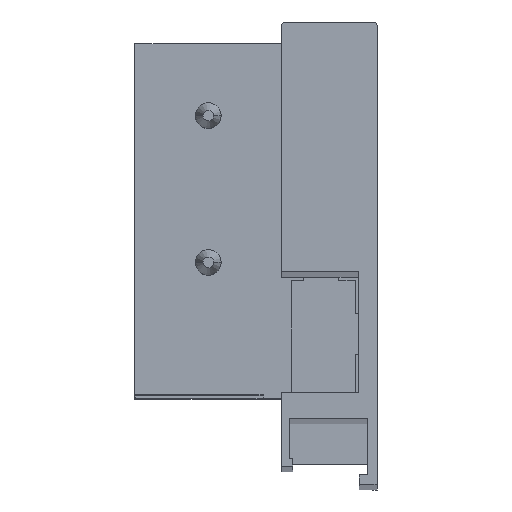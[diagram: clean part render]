
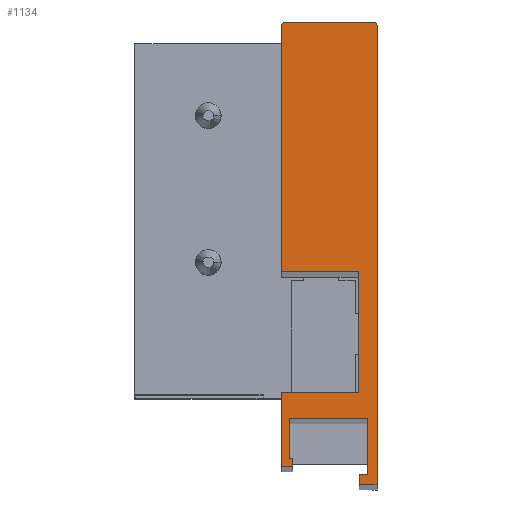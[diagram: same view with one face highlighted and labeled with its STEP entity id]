
A CAD part, top view. The second image highlights one B-rep face of the part: STEP entity #1134.
In plain terms, the highlighted planar face has unit normal (0, 0, 1).
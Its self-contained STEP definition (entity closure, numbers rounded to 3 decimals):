
#17 = DIRECTION ( 'NONE',  ( 1., 0., 0. ) ) ;
#26 = ORIENTED_EDGE ( 'NONE', *, *, #2002, .T. ) ;
#39 = VERTEX_POINT ( 'NONE', #128 ) ;
#50 = DIRECTION ( 'NONE',  ( -1., 0., 0. ) ) ;
#51 = CARTESIAN_POINT ( 'NONE',  ( 0.5, 34., 0. ) ) ;
#79 = LINE ( 'NONE', #2113, #1884 ) ;
#85 = VECTOR ( 'NONE', #310, 1000. ) ;
#97 = VERTEX_POINT ( 'NONE', #1812 ) ;
#119 = ORIENTED_EDGE ( 'NONE', *, *, #1916, .T. ) ;
#120 = CARTESIAN_POINT ( 'NONE',  ( 1., -19.969, 0. ) ) ;
#121 = EDGE_CURVE ( 'NONE', #1108, #1144, #203, .T. ) ;
#128 = CARTESIAN_POINT ( 'NONE',  ( 11.7, -27.7, 0. ) ) ;
#138 = CARTESIAN_POINT ( 'NONE',  ( 10.6, -29., 0. ) ) ;
#166 = CARTESIAN_POINT ( 'NONE',  ( 10.5, -16.5, 0. ) ) ;
#170 = ORIENTED_EDGE ( 'NONE', *, *, #1963, .T. ) ;
#185 = CARTESIAN_POINT ( 'NONE',  ( 0., -16.5, 0. ) ) ;
#199 = DIRECTION ( 'NONE',  ( 0., 1., 0. ) ) ;
#203 = LINE ( 'NONE', #2175, #1598 ) ;
#213 = CARTESIAN_POINT ( 'NONE',  ( 10.6, -29., 0. ) ) ;
#217 = CARTESIAN_POINT ( 'NONE',  ( 1.5, -26.5, 0. ) ) ;
#229 = CARTESIAN_POINT ( 'NONE',  ( 0., -26.5, 0. ) ) ;
#243 = LINE ( 'NONE', #1573, #1072 ) ;
#268 = CARTESIAN_POINT ( 'NONE',  ( 0.5, 33.5, 0. ) ) ;
#269 = VECTOR ( 'NONE', #1627, 1000. ) ;
#280 = VECTOR ( 'NONE', #199, 1000. ) ;
#290 = VERTEX_POINT ( 'NONE', #185 ) ;
#310 = DIRECTION ( 'NONE',  ( -1., 0., 0. ) ) ;
#319 = EDGE_CURVE ( 'NONE', #444, #1108, #544, .T. ) ;
#324 = DIRECTION ( 'NONE',  ( -1., 0., 0. ) ) ;
#344 = DIRECTION ( 'NONE',  ( 0., -1., 0. ) ) ;
#355 = VECTOR ( 'NONE', #1225, 1000. ) ;
#377 = ORIENTED_EDGE ( 'NONE', *, *, #2102, .T. ) ;
#382 = CARTESIAN_POINT ( 'NONE',  ( 13., 33.5, 0. ) ) ;
#403 = LINE ( 'NONE', #382, #1750 ) ;
#407 = CARTESIAN_POINT ( 'NONE',  ( 1.5, -26.5, 0. ) ) ;
#408 = VECTOR ( 'NONE', #1764, 1000. ) ;
#412 = ORIENTED_EDGE ( 'NONE', *, *, #916, .T. ) ;
#435 = DIRECTION ( 'NONE',  ( -1., 0., 0. ) ) ;
#444 = VERTEX_POINT ( 'NONE', #217 ) ;
#473 = DIRECTION ( 'NONE',  ( 0., 0., -1. ) ) ;
#476 = ORIENTED_EDGE ( 'NONE', *, *, #897, .T. ) ;
#492 = ORIENTED_EDGE ( 'NONE', *, *, #1693, .T. ) ;
#506 = VECTOR ( 'NONE', #17, 1000. ) ;
#530 = ORIENTED_EDGE ( 'NONE', *, *, #1481, .T. ) ;
#533 = AXIS2_PLACEMENT_3D ( 'NONE', #1313, #473, #1657 ) ;
#544 = LINE ( 'NONE', #1371, #280 ) ;
#562 = CARTESIAN_POINT ( 'NONE',  ( 12.5, 33.5, 0. ) ) ;
#579 = EDGE_CURVE ( 'NONE', #1719, #444, #2108, .T. ) ;
#604 = CARTESIAN_POINT ( 'NONE',  ( 0., 33.5, 0. ) ) ;
#617 = CARTESIAN_POINT ( 'NONE',  ( 12.5, 34., 0. ) ) ;
#625 = CARTESIAN_POINT ( 'NONE',  ( 0., 0., 0. ) ) ;
#629 = CARTESIAN_POINT ( 'NONE',  ( 10.5, 0., 0. ) ) ;
#704 = AXIS2_PLACEMENT_3D ( 'NONE', #562, #1742, #734 ) ;
#712 = VERTEX_POINT ( 'NONE', #617 ) ;
#718 = CARTESIAN_POINT ( 'NONE',  ( 11.7, -19.969, 0. ) ) ;
#721 = VECTOR ( 'NONE', #344, 1000. ) ;
#734 = DIRECTION ( 'NONE',  ( 1., 0., 0. ) ) ;
#743 = LINE ( 'NONE', #1906, #2044 ) ;
#775 = ORIENTED_EDGE ( 'NONE', *, *, #1870, .T. ) ;
#792 = CARTESIAN_POINT ( 'NONE',  ( 1.5, -25.5, 0. ) ) ;
#800 = VECTOR ( 'NONE', #904, 1000. ) ;
#856 = CARTESIAN_POINT ( 'NONE',  ( 0., -26.5, 0. ) ) ;
#861 = LINE ( 'NONE', #229, #800 ) ;
#896 = ORIENTED_EDGE ( 'NONE', *, *, #1814, .T. ) ;
#897 = EDGE_CURVE ( 'NONE', #1133, #2050, #1353, .T. ) ;
#904 = DIRECTION ( 'NONE',  ( 0., -1., 0. ) ) ;
#909 = DIRECTION ( 'NONE',  ( 1., 0., 0. ) ) ;
#916 = EDGE_CURVE ( 'NONE', #290, #1719, #861, .T. ) ;
#938 = ORIENTED_EDGE ( 'NONE', *, *, #579, .T. ) ;
#945 = ORIENTED_EDGE ( 'NONE', *, *, #319, .T. ) ;
#957 = EDGE_LOOP ( 'NONE', ( #530, #896, #775, #119, #26, #377, #1948, #476, #1910, #412, #938, #945, #1650, #1018, #170, #492, #1867, #1320 ) ) ;
#982 = VERTEX_POINT ( 'NONE', #2116 ) ;
#1016 = CARTESIAN_POINT ( 'NONE',  ( 10.5, 0., 0. ) ) ;
#1018 = ORIENTED_EDGE ( 'NONE', *, *, #2089, .T. ) ;
#1035 = CARTESIAN_POINT ( 'NONE',  ( 10.6, -27.7, 0. ) ) ;
#1044 = VECTOR ( 'NONE', #2154, 1000. ) ;
#1057 = VERTEX_POINT ( 'NONE', #604 ) ;
#1059 = DIRECTION ( 'NONE',  ( -1., 0., 0. ) ) ;
#1072 = VECTOR ( 'NONE', #1059, 1000. ) ;
#1076 = LINE ( 'NONE', #1830, #85 ) ;
#1080 = DIRECTION ( 'NONE',  ( 1., 0., 0. ) ) ;
#1108 = VERTEX_POINT ( 'NONE', #792 ) ;
#1109 = VERTEX_POINT ( 'NONE', #1119 ) ;
#1119 = CARTESIAN_POINT ( 'NONE',  ( 0., 0., 0. ) ) ;
#1126 = PLANE ( 'NONE',  #533 ) ;
#1133 = VERTEX_POINT ( 'NONE', #629 ) ;
#1134 = ADVANCED_FACE ( 'NONE', ( #2019 ), #1126, .F. ) ;
#1139 = CARTESIAN_POINT ( 'NONE',  ( 1., -25.5, 0. ) ) ;
#1144 = VERTEX_POINT ( 'NONE', #1139 ) ;
#1220 = LINE ( 'NONE', #1688, #721 ) ;
#1225 = DIRECTION ( 'NONE',  ( 0., -1., 0. ) ) ;
#1241 = LINE ( 'NONE', #213, #355 ) ;
#1283 = CARTESIAN_POINT ( 'NONE',  ( 10.5, -16.5, 0. ) ) ;
#1303 = VECTOR ( 'NONE', #1401, 1000. ) ;
#1313 = CARTESIAN_POINT ( 'NONE',  ( 0.5, 33.5, 0. ) ) ;
#1320 = ORIENTED_EDGE ( 'NONE', *, *, #1831, .T. ) ;
#1324 = CIRCLE ( 'NONE', #2068, 0.5 ) ;
#1346 = VERTEX_POINT ( 'NONE', #1035 ) ;
#1353 = LINE ( 'NONE', #166, #1303 ) ;
#1371 = CARTESIAN_POINT ( 'NONE',  ( 1.5, -25.5, 0. ) ) ;
#1401 = DIRECTION ( 'NONE',  ( 0., -1., 0. ) ) ;
#1410 = CARTESIAN_POINT ( 'NONE',  ( 13., -29., 0. ) ) ;
#1411 = VERTEX_POINT ( 'NONE', #718 ) ;
#1438 = DIRECTION ( 'NONE',  ( 0., 0., 1. ) ) ;
#1441 = VERTEX_POINT ( 'NONE', #51 ) ;
#1481 = EDGE_CURVE ( 'NONE', #1579, #1841, #1806, .T. ) ;
#1508 = LINE ( 'NONE', #625, #1044 ) ;
#1558 = DIRECTION ( 'NONE',  ( 0., 1., 0. ) ) ;
#1565 = CARTESIAN_POINT ( 'NONE',  ( 13., -29., 0. ) ) ;
#1573 = CARTESIAN_POINT ( 'NONE',  ( 0.5, 34., 0. ) ) ;
#1579 = VERTEX_POINT ( 'NONE', #138 ) ;
#1598 = VECTOR ( 'NONE', #324, 1000. ) ;
#1609 = EDGE_CURVE ( 'NONE', #2050, #290, #1076, .T. ) ;
#1627 = DIRECTION ( 'NONE',  ( 0., 1., 0. ) ) ;
#1649 = VECTOR ( 'NONE', #909, 1000. ) ;
#1650 = ORIENTED_EDGE ( 'NONE', *, *, #121, .T. ) ;
#1657 = DIRECTION ( 'NONE',  ( -1., 0., 0. ) ) ;
#1688 = CARTESIAN_POINT ( 'NONE',  ( 11.7, -27.7, 0. ) ) ;
#1693 = EDGE_CURVE ( 'NONE', #1411, #39, #1220, .T. ) ;
#1719 = VERTEX_POINT ( 'NONE', #856 ) ;
#1742 = DIRECTION ( 'NONE',  ( 0., 0., 1. ) ) ;
#1747 = LINE ( 'NONE', #1016, #506 ) ;
#1750 = VECTOR ( 'NONE', #1558, 1000. ) ;
#1764 = DIRECTION ( 'NONE',  ( 1., 0., 0. ) ) ;
#1806 = LINE ( 'NONE', #1410, #1649 ) ;
#1812 = CARTESIAN_POINT ( 'NONE',  ( 1., -19.969, 0. ) ) ;
#1814 = EDGE_CURVE ( 'NONE', #1841, #982, #403, .T. ) ;
#1830 = CARTESIAN_POINT ( 'NONE',  ( 0., -16.5, 0. ) ) ;
#1831 = EDGE_CURVE ( 'NONE', #1346, #1579, #1241, .T. ) ;
#1841 = VERTEX_POINT ( 'NONE', #1565 ) ;
#1867 = ORIENTED_EDGE ( 'NONE', *, *, #1871, .T. ) ;
#1870 = EDGE_CURVE ( 'NONE', #982, #712, #2101, .T. ) ;
#1871 = EDGE_CURVE ( 'NONE', #39, #1346, #743, .T. ) ;
#1884 = VECTOR ( 'NONE', #1080, 1000. ) ;
#1906 = CARTESIAN_POINT ( 'NONE',  ( 10.6, -27.7, 0. ) ) ;
#1910 = ORIENTED_EDGE ( 'NONE', *, *, #1609, .T. ) ;
#1916 = EDGE_CURVE ( 'NONE', #712, #1441, #243, .T. ) ;
#1948 = ORIENTED_EDGE ( 'NONE', *, *, #2169, .T. ) ;
#1963 = EDGE_CURVE ( 'NONE', #97, #1411, #79, .T. ) ;
#2002 = EDGE_CURVE ( 'NONE', #1441, #1057, #1324, .T. ) ;
#2018 = LINE ( 'NONE', #120, #269 ) ;
#2019 = FACE_OUTER_BOUND ( 'NONE', #957, .T. ) ;
#2044 = VECTOR ( 'NONE', #50, 1000. ) ;
#2050 = VERTEX_POINT ( 'NONE', #1283 ) ;
#2068 = AXIS2_PLACEMENT_3D ( 'NONE', #268, #1438, #435 ) ;
#2089 = EDGE_CURVE ( 'NONE', #1144, #97, #2018, .T. ) ;
#2101 = CIRCLE ( 'NONE', #704, 0.5 ) ;
#2102 = EDGE_CURVE ( 'NONE', #1057, #1109, #1508, .T. ) ;
#2108 = LINE ( 'NONE', #407, #408 ) ;
#2113 = CARTESIAN_POINT ( 'NONE',  ( 11.7, -19.969, 0. ) ) ;
#2116 = CARTESIAN_POINT ( 'NONE',  ( 13., 33.5, 0. ) ) ;
#2154 = DIRECTION ( 'NONE',  ( 0., -1., 0. ) ) ;
#2169 = EDGE_CURVE ( 'NONE', #1109, #1133, #1747, .T. ) ;
#2175 = CARTESIAN_POINT ( 'NONE',  ( 1., -25.5, 0. ) ) ;
